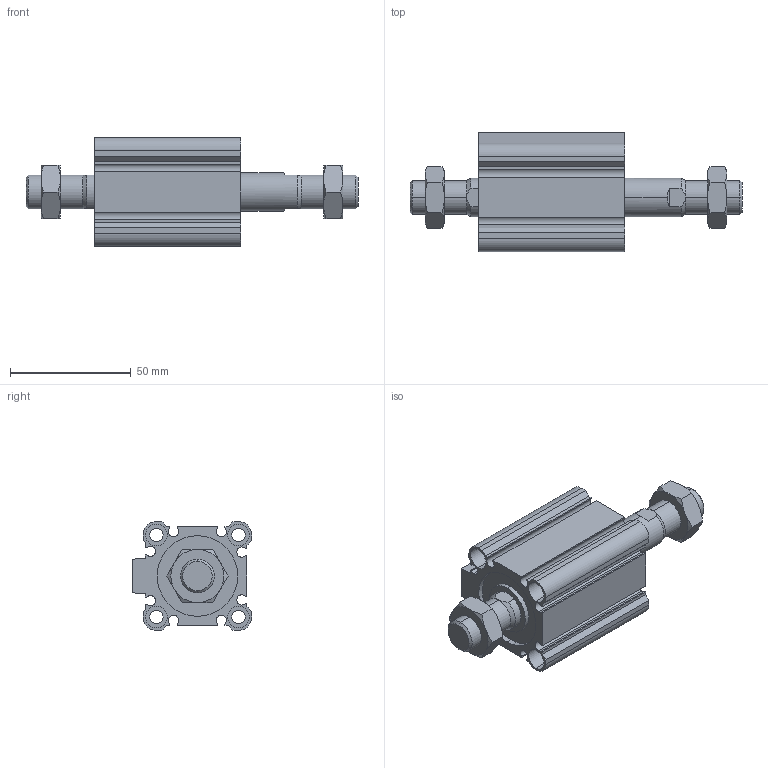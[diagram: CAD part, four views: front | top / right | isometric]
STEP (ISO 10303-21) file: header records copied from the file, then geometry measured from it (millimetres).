
FILE_DESCRIPTION (( 'STEP AP203' ), '1' );
FILE_NAME ('CCMB32-20M-P.STEP', '2020-08-10T11:33:25', ( '' ), ( '' ), 'SwSTEP 2.0', 'SolidWorks 2019', '' );
FILE_SCHEMA (( 'CONFIG_CONTROL_DESIGN' ));
Length unit declared in the file: millimetre
Products named in the file (1): CCMB32-20M-P
Bounding box: 137.5 x 49.5 x 45 mm (x, y, z)
Volume: 101639.4 mm3; surface area: 42344.4 mm2
Topology: 4 solids, 4 shells, 216 faces, 522 edges, 332 vertices
Faces by surface type: plane 94, cylinder 78, cone 44
Entity records: 7009 total; most frequent: CARTESIAN_POINT 1819, DIRECTION 1088, ORIENTED_EDGE 1044, EDGE_CURVE 522, AXIS2_PLACEMENT_3D 413, VERTEX_POINT 332, LINE 262, VECTOR 262
